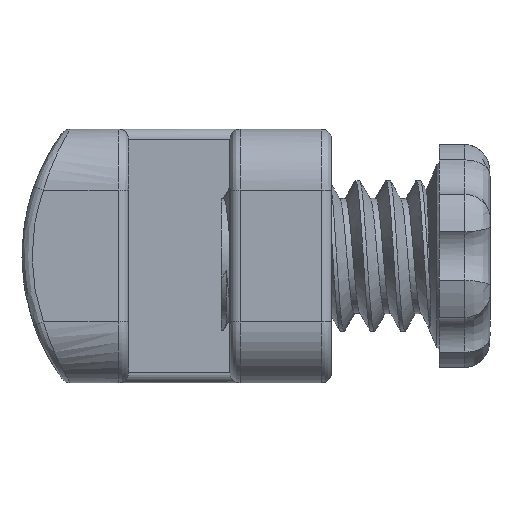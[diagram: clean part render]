
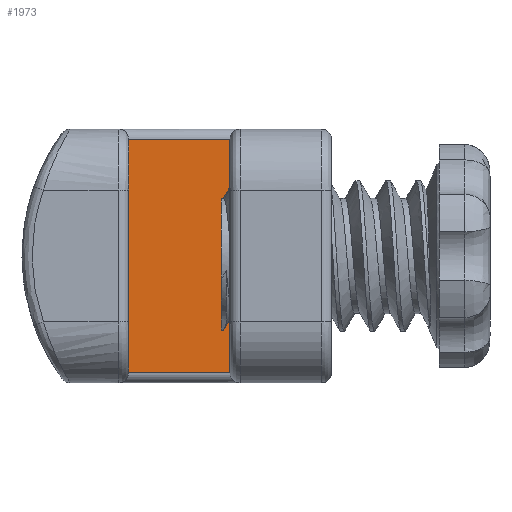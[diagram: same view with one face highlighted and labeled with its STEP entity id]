
A CAD part, left-side view. The second image highlights one B-rep face of the part: STEP entity #1973.
In plain terms, the highlighted free-form (B-spline) face has degree [1, 1] with [2, 2] control points.
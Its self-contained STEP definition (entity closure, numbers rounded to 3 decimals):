
#1711=CARTESIAN_POINT('',(40.,0.,50.));
#1712=VERTEX_POINT('',#1711);
#1713=CARTESIAN_POINT('',(40.,0.,4.));
#1714=VERTEX_POINT('',#1713);
#1715=CARTESIAN_POINT('',(40.,0.,50.));
#1716=CARTESIAN_POINT('',(40.,0.,4.));
#1717=B_SPLINE_CURVE_WITH_KNOTS('',1,(#1715,#1716),.POLYLINE_FORM.,.F.,.U.,(2,2),(0.371,0.495),.UNSPECIFIED.);
#1718=EDGE_CURVE('',#1712,#1714,#1717,.T.);
#1946=CARTESIAN_POINT('',(40.,22.,52.));
#1947=CARTESIAN_POINT('',(40.,-2.,52.));
#1948=CARTESIAN_POINT('',(40.,22.,2.));
#1949=CARTESIAN_POINT('',(40.,-2.,2.));
#1950=B_SPLINE_SURFACE_WITH_KNOTS('',1,1,((#1946,#1947),(#1948,#1949)),.PLANE_SURF.,.F.,.F.,.U.,(2,2),(2,2),(0.425,0.575),(0.488,0.56),.UNSPECIFIED.);
#1951=CARTESIAN_POINT('',(40.,20.,4.));
#1952=VERTEX_POINT('',#1951);
#1953=CARTESIAN_POINT('',(40.,20.,50.));
#1954=VERTEX_POINT('',#1953);
#1955=CARTESIAN_POINT('',(40.,20.,4.));
#1956=CARTESIAN_POINT('',(40.,20.,50.));
#1957=B_SPLINE_CURVE_WITH_KNOTS('',1,(#1955,#1956),.POLYLINE_FORM.,.F.,.U.,(2,2),(0.51,0.738),.UNSPECIFIED.);
#1958=EDGE_CURVE('',#1952,#1954,#1957,.T.);
#1959=ORIENTED_EDGE('',*,*,#1958,.F.);
#1960=CARTESIAN_POINT('',(40.,0.,4.));
#1961=CARTESIAN_POINT('',(40.,20.,4.));
#1962=B_SPLINE_CURVE_WITH_KNOTS('',1,(#1960,#1961),.POLYLINE_FORM.,.F.,.U.,(2,2),(0.381,0.761),.UNSPECIFIED.);
#1963=EDGE_CURVE('',#1714,#1952,#1962,.T.);
#1964=ORIENTED_EDGE('',*,*,#1963,.F.);
#1965=ORIENTED_EDGE('',*,*,#1718,.F.);
#1966=CARTESIAN_POINT('',(40.,0.,50.));
#1967=CARTESIAN_POINT('',(40.,20.,50.));
#1968=B_SPLINE_CURVE_WITH_KNOTS('',1,(#1966,#1967),.POLYLINE_FORM.,.F.,.U.,(2,2),(0.381,0.761),.UNSPECIFIED.);
#1969=EDGE_CURVE('',#1712,#1954,#1968,.T.);
#1970=ORIENTED_EDGE('',*,*,#1969,.T.);
#1971=EDGE_LOOP('',(#1959,#1964,#1965,#1970));
#1972=FACE_OUTER_BOUND('',#1971,.T.);
#1973=ADVANCED_FACE('',(#1972),#1950,.T.);
